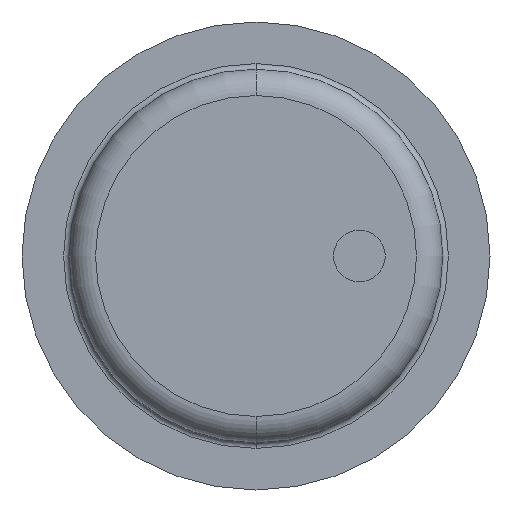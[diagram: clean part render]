
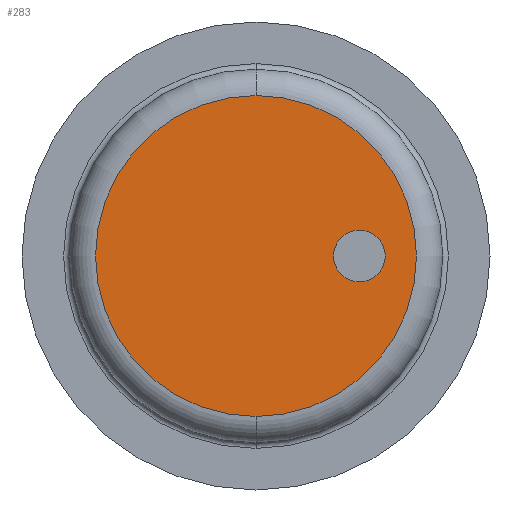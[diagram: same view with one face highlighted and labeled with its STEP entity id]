
A CAD part, front view. The second image highlights one B-rep face of the part: STEP entity #283.
In plain terms, the highlighted planar face has unit normal (0, -1, 0).
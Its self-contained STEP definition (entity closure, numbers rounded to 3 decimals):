
#283 = ADVANCED_FACE( '', ( #652, #653 ), #654, .T. );
#652 = FACE_BOUND( '', #1037, .T. );
#653 = FACE_OUTER_BOUND( '', #1038, .T. );
#654 = PLANE( '', #1039 );
#1037 = EDGE_LOOP( '', ( #2307, #2308 ) );
#1038 = EDGE_LOOP( '', ( #2309, #2310, #2311 ) );
#1039 = AXIS2_PLACEMENT_3D( '', #2312, #2313, #2314 );
#2307 = ORIENTED_EDGE( '', *, *, #2805, .T. );
#2308 = ORIENTED_EDGE( '', *, *, #2807, .T. );
#2309 = ORIENTED_EDGE( '', *, *, #2799, .F. );
#2310 = ORIENTED_EDGE( '', *, *, #2798, .F. );
#2311 = ORIENTED_EDGE( '', *, *, #2808, .F. );
#2312 = CARTESIAN_POINT( '', ( 107.688, -448., 0. ) );
#2313 = DIRECTION( '', ( 0., -1., 0. ) );
#2314 = DIRECTION( '', ( -1., 0., 0. ) );
#2798 = EDGE_CURVE( '', #3465, #3468, #3469, .T. );
#2799 = EDGE_CURVE( '', #3468, #3470, #3471, .T. );
#2805 = EDGE_CURVE( '', #3475, #3479, #3481, .T. );
#2807 = EDGE_CURVE( '', #3479, #3475, #3483, .T. );
#2808 = EDGE_CURVE( '', #3470, #3465, #3484, .T. );
#3465 = VERTEX_POINT( '', #4597 );
#3468 = VERTEX_POINT( '', #4600 );
#3469 = CIRCLE( '', #4601, 85.375 );
#3470 = VERTEX_POINT( '', #4602 );
#3471 = CIRCLE( '', #4603, 85.375 );
#3475 = VERTEX_POINT( '', #4607 );
#3479 = VERTEX_POINT( '', #4612 );
#3481 = CIRCLE( '', #4615, 13.75 );
#3483 = CIRCLE( '', #4617, 13.75 );
#3484 = CIRCLE( '', #4618, 85.375 );
#4597 = CARTESIAN_POINT( '', ( 65., -448., 85.375 ) );
#4600 = CARTESIAN_POINT( '', ( 150.375, -448., 0. ) );
#4601 = AXIS2_PLACEMENT_3D( '', #5514, #5515, #5516 );
#4602 = CARTESIAN_POINT( '', ( 65., -448., -85.375 ) );
#4603 = AXIS2_PLACEMENT_3D( '', #5517, #5518, #5519 );
#4607 = CARTESIAN_POINT( '', ( 133.75, -448., 0. ) );
#4612 = CARTESIAN_POINT( '', ( 106.25, -448., 0. ) );
#4615 = AXIS2_PLACEMENT_3D( '', #5531, #5532, #5533 );
#4617 = AXIS2_PLACEMENT_3D( '', #5537, #5538, #5539 );
#4618 = AXIS2_PLACEMENT_3D( '', #5540, #5541, #5542 );
#5514 = CARTESIAN_POINT( '', ( 65., -448., 0. ) );
#5515 = DIRECTION( '', ( 0., 1., 0. ) );
#5516 = DIRECTION( '', ( 1., 0., 0. ) );
#5517 = CARTESIAN_POINT( '', ( 65., -448., 0. ) );
#5518 = DIRECTION( '', ( 0., 1., 0. ) );
#5519 = DIRECTION( '', ( 1., 0., 0. ) );
#5531 = CARTESIAN_POINT( '', ( 120., -448., 0. ) );
#5532 = DIRECTION( '', ( 0., 1., 0. ) );
#5533 = DIRECTION( '', ( 1., 0., 0. ) );
#5537 = CARTESIAN_POINT( '', ( 120., -448., 0. ) );
#5538 = DIRECTION( '', ( 0., 1., 0. ) );
#5539 = DIRECTION( '', ( 1., 0., 0. ) );
#5540 = CARTESIAN_POINT( '', ( 65., -448., 0. ) );
#5541 = DIRECTION( '', ( 0., 1., 0. ) );
#5542 = DIRECTION( '', ( 1., 0., 0. ) );
